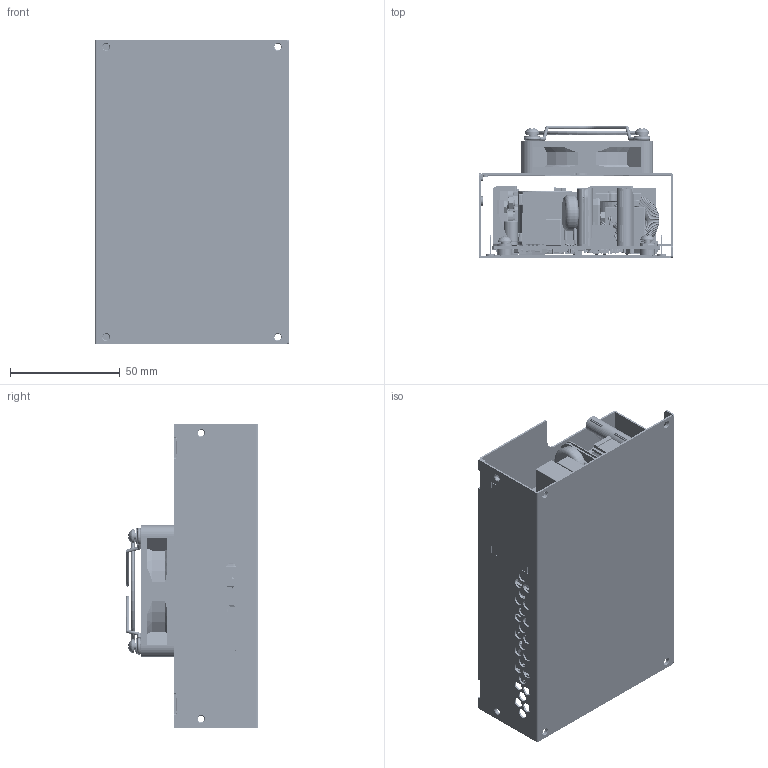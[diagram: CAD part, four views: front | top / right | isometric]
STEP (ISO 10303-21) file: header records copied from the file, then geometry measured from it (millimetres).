
FILE_DESCRIPTION((''),'2;1');
FILE_NAME('MEP-500A24J_DRA_ASM_ASM','2025-03-31T09:26:20',('EUNICE.HUANG'),(''),'CREO PARAMETRIC BY PTC INC, 2023294','CREO PARAMETRIC BY PTC INC, 2023294','');
FILE_SCHEMA(('CONFIG_CONTROL_DESIGN','GEOMETRIC_VALIDATION_PROPERTIES_MIM'));
Products named in the file (630): STANFOFF-M3_AF0_5_1_1; STANFOFF-M3_AF2_5_1_1; STANFOFF-M3_AF1_5_1_1; STANFOFF-M3_AF3_5_1_1; INSULATOR-A_33_1_1; CASE_DOWNF_9_1_1_1; CASE_DOWNF_9_2_1_1; CASE_DOWNF_9_3_1_1; CASE_DOWNF_9_4_1_1; CASE_DOWNF_9_5_1_1; CASE_DOWNF_9_6_1_1; CASE_DOWNF_9_7_1_1; CASE_DOWNF_9_ASM_1_ASM_1_ASM; CASE_TYPE1_ASM_49_ASM_1_ASM_1_ASM; BOARD-1017_1_1_1; 200124120020_BD1_1_1_1; BD1_ASM_1_ASM_1_ASM_1_ASM; 334830150202_1_1_1; RIGHT_ANGLE_2_1_1_1; PIN_1_1_1; M3_L7_1_1_1; NUT-247_1_1_1; M3L7_ASM_ASM_1_ASM_1_ASM_1_ASM; 334-HS2_ASM_ASM_1_ASM_1_ASM_1_ASM; HS2_ASM_1_ASM_1_ASM_1_ASM; WIRE_23_1_1_1_1; WIRE_23_2_1_1_1; WIRE_23_3_1_1_1; WIRE_23_ASM_ASM_1_ASM_1_ASM_1_ASM; 3175561000-BASE_11_1_1_1_1; 3175561000-BASE_11_2_1_1_1; 3175561000-BASE_11_3_1_1_1; 3175561000-BASE_11_4_1_1_1; 3175561000-BASE_11_5_1_1_1; 3175561000-BASE_11_ASM_ASM_1_AS_ASM; 3242683300-INSULATOR_15_1_1_1; NHFV-IPS20222_ASM_13_ASM_ASM_1__ASM; 2875534502_NHFV-IPS20222_ASM_1__ASM; FL3_ASM_1_ASM_1_ASM_1_ASM; C1-147421812152_1_1_1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
Assembly tree (897 placements, depth 15):
  MEP-500A24J_DRA_ASM_ASM
    MEP-500A24J_DRAR1C0_ASM_1230202_ASM
      MEP-500A24J_DRAR1C0_ASM_ASM_4_A_ASM
        CASE_TYPE1_ASM_49_ASM_1_ASM_1_ASM
          STANFOFF-M3_AF0_5_1_1
          STANFOFF-M3_AF2_5_1_1
          STANFOFF-M3_AF1_5_1_1
          STANFOFF-M3_AF3_5_1_1
          INSULATOR-A_33_1_1
          CASE_DOWNF_9_ASM_1_ASM_1_ASM
            CASE_DOWNF_9_1_1_1
            CASE_DOWNF_9_2_1_1
            CASE_DOWNF_9_3_1_1
            CASE_DOWNF_9_4_1_1
            CASE_DOWNF_9_5_1_1
            CASE_DOWNF_9_6_1_1
            CASE_DOWNF_9_7_1_1
        MEP-500A24J_DRAR1C0_ASM_-454487_ASM
          MEP-500A24J_DRAR1C0_ASM_-444952_ASM
            PCB_ASM_1_ASM_1_ASM_1_ASM
              BOARD-1017_1_1_1
              BD1_ASM_1_ASM_1_ASM_1_ASM
                200124120020_BD1_1_1_1
              HS2_ASM_1_ASM_1_ASM_1_ASM
                334-HS2_ASM_ASM_1_ASM_1_ASM_1_ASM
                  334830150202_1_1_1
                  RIGHT_ANGLE_2_1_1_1
                  PIN_1_1_1
                  M3L7_ASM_ASM_1_ASM_1_ASM_1_ASM
              FL3_ASM_1_ASM_1_ASM_1_ASM
                2875534502_NHFV-IPS20222_ASM_1__ASM
                  NHFV-IPS20222_ASM_13_ASM_ASM_1__ASM
              C1_ASM_1_ASM_1_ASM_1_ASM
                C1-147421812152_1_1_1
              C43_ASM_1_ASM_1_ASM_1_ASM
                1512464102-77722_ASM_1_ASM_1_AS_ASM
                  1512464102-77732_1_1_1
              R71_ASM_1_ASM_1_ASM_1_ASM
                0311072032-84434_ASM_1_ASM_1_AS_ASM
                  0311072032_ASM_1_1_2_3_AS-84451_ASM
              R117_ASM_1_ASM_1_ASM_1_ASM
                0343270142-85117_ASM_1_ASM_1_AS_ASM
                  0343270142-BODY-85131_1_1_1
                  0343270142-COATING-85572_1_1_1
              R105_ASM_1_ASM_1_ASM_1_ASM
                0343270142-85117_ASM_1_ASM_1_AS_ASM
                  0343270142-BODY-85131_1_1_1
                  0343270142-COATING-85572_1_1_1
              C117_ASM_1_ASM_1_ASM_1_ASM
                1512464102-77722_ASM_1_ASM_1_AS_ASM
                  1512464102-77732_1_1_1
              Q102_ASM_1_ASM_1_ASM_1_ASM
                242953650635_1_1_1
              R129_ASM_1_ASM_1_ASM_1_ASM
                0311072032-84434_ASM_1_ASM_1_AS_ASM
                  0311072032_ASM_1_1_2_3_AS-84451_ASM
              R128_ASM_1_ASM_1_ASM_1_ASM
                0311072032-84434_ASM_1_ASM_1_AS_ASM
                  0311072032_ASM_1_1_2_3_AS-84451_ASM
              R120_ASM_1_ASM_1_ASM_1_ASM
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Bounding box: 88.21 x 60.2 x 138.6 mm (x, y, z)
Volume: 189669.8 mm3; surface area: 214753.2 mm2
Topology: 584 solids, 595 shells, 20049 faces, 51927 edges, 32987 vertices
Faces by surface type: plane 10725, cylinder 6437, torus 2149, sphere 346, bspline 299, cone 93
Entity records: 452221 total; most frequent: CARTESIAN_POINT 133183, DIRECTION 65800, ORIENTED_EDGE 59950, EDGE_CURVE 29989, AXIS2_PLACEMENT_3D 24780, VERTEX_POINT 19131, VECTOR 16240, LINE 16240
